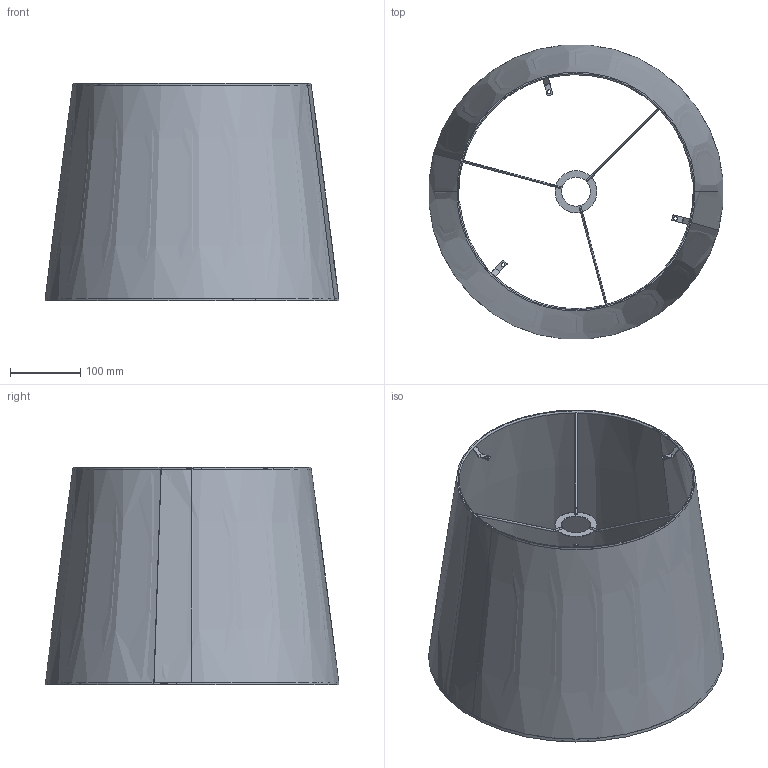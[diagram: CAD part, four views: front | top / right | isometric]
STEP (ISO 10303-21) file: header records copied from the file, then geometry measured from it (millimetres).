
FILE_DESCRIPTION(/* description */ (''),/* implementation_level */ '2;1');
FILE_NAME(/* name */ 'C:\Users\francosartori\Documents\Modelos\01_Indoor\1_SAVOY\03_Publicación\20319_20320_20321\20321.stp',/* time_stamp */ '2020-05-21T13:10:25+02:00',/* author */ ('FrancoSartori'),/* organization */ (''),/* preprocessor_version */ 'ST-DEVELOPER v18.1',/* originating_system */ 'AutoCAD Mechanical',/* authorisation */ '');
FILE_SCHEMA (('AUTOMOTIVE_DESIGN { 1 0 10303 214 3 1 1 }'));
Length unit declared in the file: millimetre
Products named in the file (2): Product; 20319_20320_20321_SAVOY - SAVOY SUSPENDED SHADE-437226-_3D_
Assembly tree (1 placements, depth 2):
  Product
    20319_20320_20321_SAVOY - SAVOY SUSPENDED SHADE-437226-_3D_
Bounding box: 418.4 x 418.4 x 310 mm (x, y, z)
Volume: 362770.3 mm3; surface area: 1491834.6 mm2
Topology: 2 solids, 3 shells, 78 faces, 226 edges, 144 vertices
Faces by surface type: plane 32, cylinder 28, torus 10, cone 8
Entity records: 3675 total; most frequent: CARTESIAN_POINT 1659, ORIENTED_EDGE 404, DIRECTION 376, EDGE_CURVE 226, VERTEX_POINT 144, AXIS2_PLACEMENT_3D 135, LINE 106, VECTOR 106
